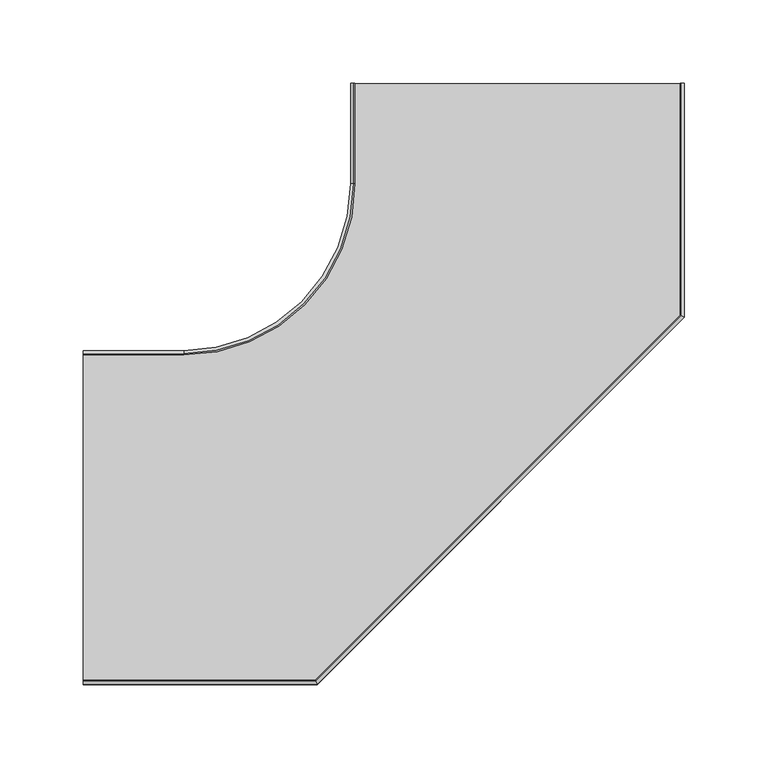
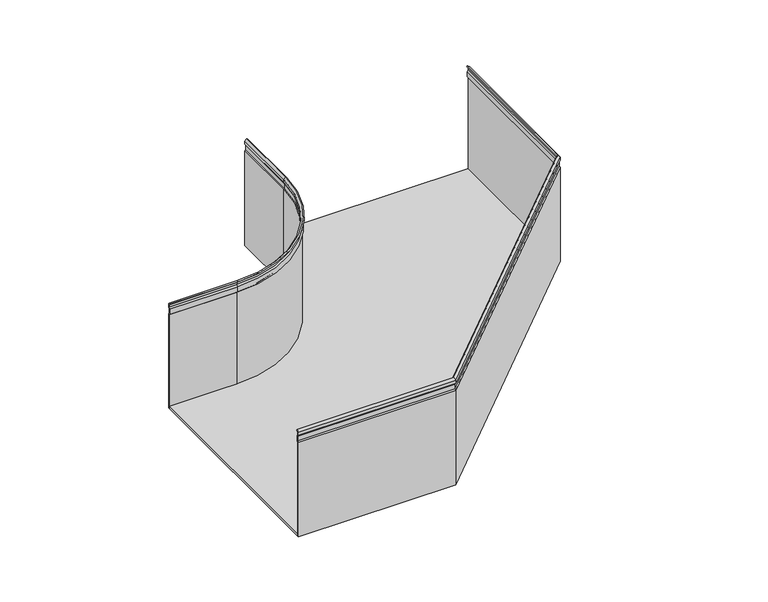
"""IFC4 building model written with IfcOpenShell, lengths in millimetres: cable carrier fitting geometry, CPERC_Horizontal Bend_Basortray : Basortray CPERC-GS."""

from ifc_helpers import new_model, si_unit, point, frame, frame_2d, origin, place, context, project, spatial, polyline, circle_curve, trimmed, segment, composite_curve, outline, extrude, faceted_brep, source, transform, mapped, element, save
from ifc_brep_helpers import plane_surface, cylinder_surface, revolved_surface, advanced_brep


def cable_carrier_fitting_da196a82(model_context):
    return source(origin(), model_context, "Body", "SolidModel", [
        advanced_brep(
        [(-260.0, 100.0, 38.8300436), (-260.0, 100.0, -50.0), (-260.0, 99.0, -50.0), (-260.0, 99.0, 38.41583), (-260.0, 98.1224746, 39.2933554), (-260.0, 98.1224746, 44.2339585), (-260.0, 99.0, 45.7538771), (-260.0, 99.0, 47.7843164), (-260.0, 97.4151517, 49.2926771), (-260.0, 98.1224746, 50.0), (-260.0, 100.0, 48.2130874), (-260.0, 100.0, 45.4859279), (-260.0, 99.1224746, 43.9660094), (-260.0, 99.1224746, 39.707569), (-200.0, 99.1224746, 39.707569), (-200.0, 100.0, 38.8300436), (-200.0, 99.1224746, 43.9660094), (-200.0, 100.0, 45.4859279), (-200.0, 100.0, 48.2130874), (-200.0, 98.1224746, 50.0), (-200.0, 97.4151517, 49.2926771), (-200.0, 99.0, 47.7843164), (-200.0, 99.0, 45.7538771), (-200.0, 98.1224746, 44.2339585), (-200.0, 98.1224746, 39.2933554), (-200.0, 99.0, 38.41583), (-200.0, 99.0, -50.0), (-200.0, 100.0, -50.0), (-100.0, 200.0, -50.0), (-100.0, 260.0, -50.0), (-99.0, 260.0, -50.0), (-99.0, 200.0, -50.0), (-100.0, 260.0, 38.8300436), (-99.1224746, 260.0, 39.707569), (-99.1224746, 260.0, 43.9660094), (-100.0, 260.0, 45.4859279), (-100.0, 260.0, 48.2130874), (-98.1224746, 260.0, 50.0), (-97.4151517, 260.0, 49.2926771), (-99.0, 260.0, 47.7843164), (-99.0, 260.0, 45.7538771), (-98.1224746, 260.0, 44.2339585), (-98.1224746, 260.0, 39.2933554), (-99.0, 260.0, 38.41583), (-100.0, 200.0, 38.8300436), (-99.0, 200.0, 38.41583), (-98.1224746, 200.0, 39.2933554), (-98.1224746, 200.0, 44.2339585), (-99.0, 200.0, 45.7538771), (-99.0, 200.0, 47.7843164), (-97.4151517, 200.0, 49.2926771), (-98.1224746, 200.0, 50.0), (-100.0, 200.0, 48.2130874), (-100.0, 200.0, 45.4859279), (-99.1224746, 200.0, 43.9660094), (-99.1224746, 200.0, 39.707569)],
        [
            (0, 1),
            (1, 2),
            (2, 3),
            (3, 4),
            (4, 5),
            (5, 6),
            (6, 7),
            (7, 8),
            (8, 9),
            (9, 10),
            (10, 11),
            (11, 12),
            (12, 13),
            (13, 0),
            (13, 14),
            (14, 15),
            (15, 0),
            (12, 16),
            (16, 14),
            (11, 17),
            (17, 16),
            (10, 18),
            (18, 17),
            (9, 19),
            (19, 18),
            (8, 20),
            (20, 19),
            (7, 21),
            (21, 20),
            (6, 22),
            (22, 21),
            (5, 23),
            (23, 22),
            (4, 24),
            (24, 23),
            (3, 25),
            (25, 24),
            (2, 26),
            (26, 25),
            (1, 27),
            (27, 28, circle_curve(frame((-200.0, 200.0, -50.0), z_axis=(0.0, 0.0, 1.0), x_axis=(0.0, -1.0, 0.0)), 100.0)),
            (28, 29),
            (29, 30),
            (30, 31),
            (31, 26, circle_curve(frame((-200.0, 200.0, -50.0), z_axis=(0.0, 0.0, -1.0), x_axis=(0.0, -1.0, 0.0)), 101.0)),
            (15, 27),
            (32, 33),
            (33, 34),
            (34, 35),
            (35, 36),
            (36, 37),
            (37, 38),
            (38, 39),
            (39, 40),
            (40, 41),
            (41, 42),
            (42, 43),
            (43, 30),
            (29, 32),
            (15, 44, circle_curve(frame((-200.0, 200.0, 38.8300436), z_axis=(0.0, 0.0, 1.0), x_axis=(0.0, -1.0, 0.0)), 100.0)),
            (44, 28),
            (45, 25, circle_curve(frame((-200.0, 200.0, 38.41583), z_axis=(0.0, 0.0, -1.0), x_axis=(0.0, -1.0, 0.0)), 101.0)),
            (31, 45),
            (46, 24, circle_curve(frame((-200.0, 200.0, 39.2933554), z_axis=(0.0, 0.0, -1.0), x_axis=(0.0, -1.0, 0.0)), 101.8775254)),
            (45, 46),
            (47, 23, circle_curve(frame((-200.0, 200.0, 44.2339585), z_axis=(0.0, 0.0, -1.0), x_axis=(0.0, -1.0, 0.0)), 101.8775254)),
            (46, 47),
            (48, 22, circle_curve(frame((-200.0, 200.0, 45.7538771), z_axis=(0.0, 0.0, -1.0), x_axis=(0.0, -1.0, 0.0)), 101.0)),
            (47, 48),
            (49, 21, circle_curve(frame((-200.0, 200.0, 47.7843164), z_axis=(0.0, 0.0, -1.0), x_axis=(0.0, -1.0, 0.0)), 101.0)),
            (48, 49),
            (50, 20, circle_curve(frame((-200.0, 200.0, 49.2926771), z_axis=(0.0, 0.0, -1.0), x_axis=(0.0, -1.0, 0.0)), 102.5848483)),
            (49, 50),
            (51, 19, circle_curve(frame((-200.0, 200.0, 50.0), z_axis=(0.0, 0.0, -1.0), x_axis=(0.0, -1.0, 0.0)), 101.8775254)),
            (50, 51),
            (52, 18, circle_curve(frame((-200.0, 200.0, 48.2130874), z_axis=(0.0, 0.0, -1.0), x_axis=(0.0, -1.0, 0.0)), 100.0)),
            (51, 52),
            (53, 17, circle_curve(frame((-200.0, 200.0, 45.4859279), z_axis=(0.0, 0.0, -1.0), x_axis=(0.0, -1.0, 0.0)), 100.0)),
            (52, 53),
            (54, 16, circle_curve(frame((-200.0, 200.0, 43.9660094), z_axis=(0.0, 0.0, -1.0), x_axis=(0.0, -1.0, 0.0)), 100.8775254)),
            (53, 54),
            (55, 14, circle_curve(frame((-200.0, 200.0, 39.707569), z_axis=(0.0, 0.0, -1.0), x_axis=(0.0, -1.0, 0.0)), 100.8775254)),
            (54, 55),
            (55, 44),
            (44, 32),
            (43, 45),
            (42, 46),
            (41, 47),
            (40, 48),
            (39, 49),
            (38, 50),
            (37, 51),
            (36, 52),
            (35, 53),
            (34, 54),
            (33, 55),
        ],
        [
            plane_surface(frame((-260.0, 100.0, 0.0), z_axis=(-1.0, 0.0, 0.0), x_axis=(0.0, 0.0, 1.0))),
            plane_surface(frame((-260.0, 99.1224746, 39.707569), z_axis=(0.0, 0.707106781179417, 0.7071067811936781), x_axis=(1.0, 0.0, 0.0))),
            plane_surface(frame((-260.0, 99.1224746, 43.9660094), z_axis=(0.0, 1.0, 0.0), x_axis=(1.0, 0.0, 0.0))),
            plane_surface(frame((-260.0, 100.0, 45.4859279), z_axis=(0.0, 0.8660254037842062, -0.5000000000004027), x_axis=(1.0, 0.0, 0.0))),
            plane_surface(frame((-260.0, 100.0, 48.2130874), z_axis=(0.0, 1.0, 0.0), x_axis=(1.0, 0.0, 0.0))),
            plane_surface(frame((-260.0, 98.1224746, 50.0), z_axis=(0.0, 0.6894109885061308, 0.7243704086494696), x_axis=(1.0, 0.0, 0.0))),
            plane_surface(frame((-260.0, 97.4151517, 49.2926771), z_axis=(0.0, -0.707106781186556, 0.7071067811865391), x_axis=(1.0, 0.0, 0.0))),
            plane_surface(frame((-260.0, 99.0, 47.7843164), z_axis=(0.0, -0.6894109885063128, -0.7243704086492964), x_axis=(1.0, 0.0, 0.0))),
            plane_surface(frame((-260.0, 99.0, 45.7538771), z_axis=(0.0, -1.0, 0.0), x_axis=(1.0, 0.0, 0.0))),
            plane_surface(frame((-260.0, 98.1224746, 44.2339585), z_axis=(0.0, -0.8660254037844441, 0.4999999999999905), x_axis=(1.0, 0.0, 0.0))),
            plane_surface(frame((-260.0, 98.1224746, 39.2933554), z_axis=(0.0, -1.0, 0.0), x_axis=(1.0, 0.0, 0.0))),
            plane_surface(frame((-260.0, 99.0, 38.41583), z_axis=(0.0, -0.7071067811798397, -0.7071067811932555), x_axis=(1.0, 0.0, 0.0))),
            plane_surface(frame((-260.0, 99.0, -50.0), z_axis=(0.0, -1.0, 0.0), x_axis=(1.0, 0.0, 0.0))),
            plane_surface(frame((-260.0, 100.0, -50.0), z_axis=(0.0, 0.0, -1.0), x_axis=(1.0, 0.0, 0.0))),
            plane_surface(frame((-260.0, 100.0, 38.8300436), z_axis=(0.0, 1.0, 0.0), x_axis=(1.0, 0.0, 0.0))),
            plane_surface(frame((-100.0, 260.0, 0.0), z_axis=(0.0, 1.0, 0.0), x_axis=(0.0, 0.0, 1.0))),
            revolved_surface(polyline([(-200.0, 100.0, 38.8300436), (-200.0, 100.0, -50.0)]), (-200.0, 200.0, 0.0), (0.0, 0.0, 1.0)),
            cylinder_surface(frame((-200.0, 200.0, 0.0), z_axis=(0.0, 0.0, 1.0), x_axis=(0.0, -1.0, 0.0)), 101.0),
            revolved_surface(polyline([(-200.0, 99.0, 38.41583), (-200.0, 98.1224746, 39.2933554)]), (-200.0, 200.0, 0.0), (0.0, 0.0, 1.0)),
            cylinder_surface(frame((-200.0, 200.0, 0.0), z_axis=(0.0, 0.0, 1.0), x_axis=(0.0, -1.0, 0.0)), 101.8775254),
            revolved_surface(polyline([(-200.0, 98.1224746, 44.2339585), (-200.0, 99.0, 45.7538771)]), (-200.0, 200.0, 0.0), (0.0, 0.0, 1.0)),
            revolved_surface(polyline([(-200.0, 99.0, 47.7843164), (-200.0, 97.4151517, 49.2926771)]), (-200.0, 200.0, 0.0), (0.0, 0.0, 1.0)),
            revolved_surface(polyline([(-200.0, 97.4151517, 49.2926771), (-200.0, 98.1224746, 50.0)]), (-200.0, 200.0, 0.0), (0.0, 0.0, 1.0)),
            revolved_surface(polyline([(-200.0, 98.1224746, 50.0), (-200.0, 100.0, 48.2130874)]), (-200.0, 200.0, 0.0), (0.0, 0.0, 1.0)),
            revolved_surface(polyline([(-200.0, 100.0, 48.2130874), (-200.0, 100.0, 45.4859279)]), (-200.0, 200.0, 0.0), (0.0, 0.0, 1.0)),
            revolved_surface(polyline([(-200.0, 100.0, 45.4859279), (-200.0, 99.1224746, 43.9660094)]), (-200.0, 200.0, 0.0), (0.0, 0.0, 1.0)),
            revolved_surface(polyline([(-200.0, 99.1224746, 43.9660094), (-200.0, 99.1224746, 39.707569)]), (-200.0, 200.0, 0.0), (0.0, 0.0, 1.0)),
            revolved_surface(polyline([(-200.0, 99.1224746, 39.707569), (-200.0, 100.0, 38.8300436)]), (-200.0, 200.0, 0.0), (0.0, 0.0, 1.0)),
            plane_surface(frame((-100.0, 200.0, 38.8300436), z_axis=(-1.0, 0.0, 0.0), x_axis=(0.0, 1.0, 0.0))),
            plane_surface(frame((-99.0, 200.0, -50.0), z_axis=(1.0, 0.0, 0.0), x_axis=(0.0, 1.0, 0.0))),
            plane_surface(frame((-99.0, 200.0, 38.41583), z_axis=(0.7071067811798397, 0.0, -0.7071067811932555), x_axis=(0.0, 1.0, 0.0))),
            plane_surface(frame((-98.1224746, 200.0, 39.2933554), z_axis=(1.0, 0.0, 0.0), x_axis=(0.0, 1.0, 0.0))),
            plane_surface(frame((-98.1224746, 200.0, 44.2339585), z_axis=(0.8660254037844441, 0.0, 0.4999999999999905), x_axis=(0.0, 1.0, 0.0))),
            plane_surface(frame((-99.0, 200.0, 45.7538771), z_axis=(1.0, 0.0, 0.0), x_axis=(0.0, 1.0, 0.0))),
            plane_surface(frame((-99.0, 200.0, 47.7843164), z_axis=(0.6894109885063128, 0.0, -0.7243704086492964), x_axis=(0.0, 1.0, 0.0))),
            plane_surface(frame((-97.4151517, 200.0, 49.2926771), z_axis=(0.707106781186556, 0.0, 0.7071067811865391), x_axis=(0.0, 1.0, 0.0))),
            plane_surface(frame((-98.1224746, 200.0, 50.0), z_axis=(-0.6894109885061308, 0.0, 0.7243704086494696), x_axis=(0.0, 1.0, 0.0))),
            plane_surface(frame((-100.0, 200.0, 48.2130874), z_axis=(-1.0, 0.0, 0.0), x_axis=(0.0, 1.0, 0.0))),
            plane_surface(frame((-100.0, 200.0, 45.4859279), z_axis=(-0.8660254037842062, 0.0, -0.5000000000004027), x_axis=(0.0, 1.0, 0.0))),
            plane_surface(frame((-99.1224746, 200.0, 43.9660094), z_axis=(-1.0, 0.0, 0.0), x_axis=(0.0, 1.0, 0.0))),
            plane_surface(frame((-99.1224746, 200.0, 39.707569), z_axis=(-0.707106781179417, 0.0, 0.7071067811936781), x_axis=(0.0, 1.0, 0.0))),
        ],
        [
            (0, [[1, 2, 3, 4, 5, 6, 7, 8, 9, 10, 11, 12, 13, 14]]),
            (1, [[-14, 15, 16, 17]]),
            (2, [[-13, 18, 19, -15]]),
            (3, [[-12, 20, 21, -18]]),
            (4, [[-11, 22, 23, -20]]),
            (5, [[-10, 24, 25, -22]]),
            (6, [[-9, 26, 27, -24]]),
            (7, [[-8, 28, 29, -26]]),
            (8, [[-7, 30, 31, -28]]),
            (9, [[-6, 32, 33, -30]]),
            (10, [[-5, 34, 35, -32]]),
            (11, [[-4, 36, 37, -34]]),
            (12, [[-3, 38, 39, -36]]),
            (13, [[-2, 40, 41, 42, 43, 44, 45, -38]]),
            (14, [[-1, -17, 46, -40]]),
            (15, [[47, 48, 49, 50, 51, 52, 53, 54, 55, 56, 57, 58, -43, 59]]),
            (16, [[-41, -46, 60, 61]]),
            (17, [[62, -39, -45, 63]]),
            (18, [[64, -37, -62, 65]]),
            (19, [[66, -35, -64, 67]]),
            (20, [[68, -33, -66, 69]]),
            (17, [[70, -31, -68, 71]]),
            (21, [[72, -29, -70, 73]]),
            (22, [[74, -27, -72, 75]]),
            (23, [[76, -25, -74, 77]]),
            (24, [[78, -23, -76, 79]]),
            (25, [[80, -21, -78, 81]]),
            (26, [[82, -19, -80, 83]]),
            (27, [[-60, -16, -82, 84]]),
            (28, [[-61, 85, -59, -42]]),
            (29, [[-63, -44, -58, 86]]),
            (30, [[-65, -86, -57, 87]]),
            (31, [[-67, -87, -56, 88]]),
            (32, [[-69, -88, -55, 89]]),
            (33, [[-71, -89, -54, 90]]),
            (34, [[-73, -90, -53, 91]]),
            (35, [[-75, -91, -52, 92]]),
            (36, [[-77, -92, -51, 93]]),
            (37, [[-79, -93, -50, 94]]),
            (38, [[-81, -94, -49, 95]]),
            (39, [[-83, -95, -48, 96]]),
            (40, [[-84, -96, -47, -85]]),
        ],
    ),
        faceted_brep([(-260.0, -100.0, 38.8300436), (-260.0, -99.1224746, 39.707569), (-260.0, -99.1224746, 43.9660094), (-260.0, -100.0, 45.4859279), (-260.0, -100.0, 48.2130874), (-260.0, -98.1224746, 50.0), (-260.0, -97.4151517, 49.2926771), (-260.0, -99.0, 47.7843164), (-260.0, -99.0, 45.7538771), (-260.0, -98.1224746, 44.2339585), (-260.0, -98.1224746, 39.2933554), (-260.0, -99.0, 38.41583), (-260.0, -99.0, -50.0), (-260.0, -100.0, -50.0), (-120.0, -100.0, 38.8300436), (-120.3634829, -99.1224746, 39.707569), (-120.3634829, -99.1224746, 43.9660094), (-120.0, -100.0, 45.4859279), (-120.0, -100.0, 48.2130874), (-120.7776965, -98.1224746, 50.0), (-121.0706792, -97.4151517, 49.2926771), (-120.4142136, -99.0, 47.7843164), (-120.4142136, -99.0, 45.7538771), (-120.7776965, -98.1224746, 44.2339585), (-120.7776965, -98.1224746, 39.2933554), (-120.4142136, -99.0, 38.41583), (-120.4142136, -99.0, -50.0), (99.0, 120.4142136, -50.0), (99.0, 260.0, -50.0), (100.0, 260.0, -50.0), (100.0, 120.0, -50.0), (-120.0, -100.0, -50.0), (100.0, 120.0, 38.8300436), (99.1224746, 120.3634829, 39.707569), (99.1224746, 120.3634829, 43.9660094), (100.0, 120.0, 45.4859279), (100.0, 120.0, 48.2130874), (98.1224746, 120.7776965, 50.0), (97.4151517, 121.0706792, 49.2926771), (99.0, 120.4142136, 47.7843164), (99.0, 120.4142136, 45.7538771), (98.1224746, 120.7776965, 44.2339585), (98.1224746, 120.7776965, 39.2933554), (99.0, 120.4142136, 38.41583), (100.0, 260.0, 38.8300436), (99.0, 260.0, 38.41583), (98.1224746, 260.0, 39.2933554), (98.1224746, 260.0, 44.2339585), (99.0, 260.0, 45.7538771), (99.0, 260.0, 47.7843164), (97.4151517, 260.0, 49.2926771), (98.1224746, 260.0, 50.0), (100.0, 260.0, 48.2130874), (100.0, 260.0, 45.4859279), (99.1224746, 260.0, 43.9660094), (99.1224746, 260.0, 39.707569)], [[[0, 1, 2, 3, 4, 5, 6, 7, 8, 9, 10, 11, 12, 13]], [[1, 0, 14, 15]], [[2, 1, 15, 16]], [[3, 2, 16, 17]], [[4, 3, 17, 18]], [[5, 4, 18, 19]], [[6, 5, 19, 20]], [[7, 6, 20, 21]], [[8, 7, 21, 22]], [[9, 8, 22, 23]], [[10, 9, 23, 24]], [[11, 10, 24, 25]], [[12, 11, 25, 26]], [[13, 12, 26, 27, 28, 29, 30, 31]], [[0, 13, 31, 14]], [[15, 14, 32, 33]], [[16, 15, 33, 34]], [[17, 16, 34, 35]], [[18, 17, 35, 36]], [[19, 18, 36, 37]], [[20, 19, 37, 38]], [[21, 20, 38, 39]], [[22, 21, 39, 40]], [[23, 22, 40, 41]], [[24, 23, 41, 42]], [[25, 24, 42, 43]], [[26, 25, 43, 27]], [[14, 31, 30, 32]], [[44, 29, 28, 45, 46, 47, 48, 49, 50, 51, 52, 53, 54, 55]], [[33, 32, 44, 55]], [[34, 33, 55, 54]], [[35, 34, 54, 53]], [[36, 35, 53, 52]], [[37, 36, 52, 51]], [[38, 37, 51, 50]], [[39, 38, 50, 49]], [[40, 39, 49, 48]], [[41, 40, 48, 47]], [[42, 41, 47, 46]], [[43, 42, 46, 45]], [[27, 43, 45, 28]], [[32, 30, 29, 44]]]),
        extrude(outline(composite_curve([segment(polyline([(100.0, 120.0), (-120.0, -100.0), (-260.0, -100.0), (-260.0, 100.0), (-200.0, 100.0)]), True, "CONTINUOUS"), segment(trimmed(circle_curve(frame_2d((-200.0, 200.0)), 100.0), [point((-200.0, 100.0))], [point((-100.0, 200.0))], True, "CARTESIAN"), True, "CONTINUOUS"), segment(polyline([(-100.0, 200.0), (-100.0, 260.0), (100.0, 260.0), (100.0, 120.0)]), True, "CONTINUOUS")], self_intersect=False)), frame((0.0, 0.0, -50.0), z_axis=(0.0, 0.0, 1.0), x_axis=(1.0, 0.0, 0.0)), (0.0, 0.0, 1.0), 2.54),
    ])


if __name__ == "__main__":
    model = new_model("IFC4")
    model_context = context("Model", 3, world=origin())
    ifc_project = project(units=[si_unit("LENGTHUNIT", "METRE", prefix="MILLI")], contexts=[model_context])
    site = spatial("IfcSite", under=ifc_project)
    building = spatial("IfcBuilding", under=site)
    placement = place(None, origin())
    cable_carrier_fitting_shape = cable_carrier_fitting_da196a82(model_context)
    element("IfcCableCarrierFitting", 1, ObjectType="CPERC_Horizontal Bend_Basortray : Basortray CPERC-GS", at=placement, inside=building, context=model_context, shape_type="MappedRepresentation", body=[
        mapped(cable_carrier_fitting_shape, transform((0.0, 0.0, 0.0), x_axis=(1.0, 0.0, 0.0), y_axis=(0.0, 1.0, 0.0), z_axis=(0.0, 0.0, 1.0))),
    ])
    save(model, "model.ifc")
